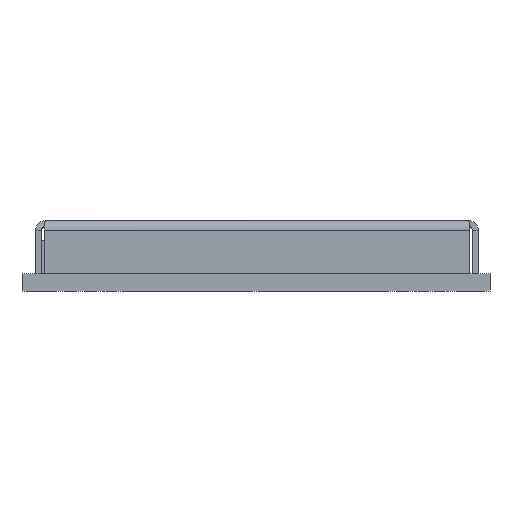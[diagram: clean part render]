
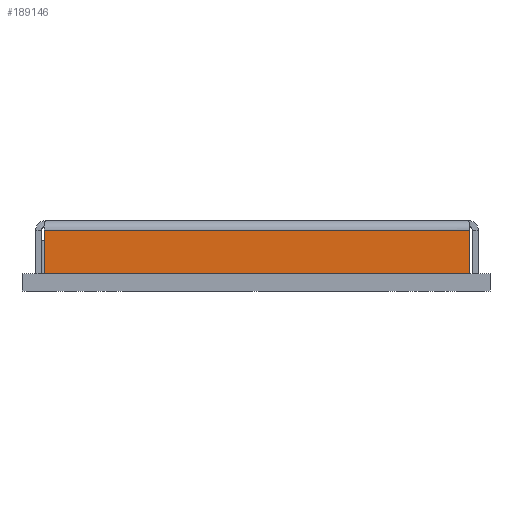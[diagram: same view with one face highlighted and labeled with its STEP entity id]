
A CAD part, front view. The second image highlights one B-rep face of the part: STEP entity #189146.
In plain terms, the highlighted planar face has unit normal (0, -1, 0).
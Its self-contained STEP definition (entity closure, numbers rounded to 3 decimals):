
#10916 = LINE ( 'NONE', #238519, #20875 ) ;
#20875 = VECTOR ( 'NONE', #137827, 1000. ) ;
#31322 = ORIENTED_EDGE ( 'NONE', *, *, #239176, .T. ) ;
#31727 = DIRECTION ( 'NONE',  ( 0., 0., 1. ) ) ;
#32681 = DIRECTION ( 'NONE',  ( 0., 0., 1. ) ) ;
#34026 = AXIS2_PLACEMENT_3D ( 'NONE', #72435, #113353, #32681 ) ;
#42470 = EDGE_LOOP ( 'NONE', ( #80155, #31322, #125591, #238597 ) ) ;
#43751 = VERTEX_POINT ( 'NONE', #158868 ) ;
#66983 = CARTESIAN_POINT ( 'NONE',  ( 11.697, 0.354, 1.11 ) ) ;
#69347 = VERTEX_POINT ( 'NONE', #168715 ) ;
#72435 = CARTESIAN_POINT ( 'NONE',  ( 11.697, 0.354, 1.36 ) ) ;
#79362 = EDGE_CURVE ( 'NONE', #146187, #69347, #199622, .T. ) ;
#80155 = ORIENTED_EDGE ( 'NONE', *, *, #79362, .T. ) ;
#91053 = VERTEX_POINT ( 'NONE', #201171 ) ;
#104255 = EDGE_CURVE ( 'NONE', #91053, #43751, #129931, .T. ) ;
#113353 = DIRECTION ( 'NONE',  ( 0., 1., 0. ) ) ;
#125591 = ORIENTED_EDGE ( 'NONE', *, *, #104255, .T. ) ;
#128846 = EDGE_CURVE ( 'NONE', #43751, #146187, #10916, .T. ) ;
#129931 = LINE ( 'NONE', #230287, #175783 ) ;
#137827 = DIRECTION ( 'NONE',  ( 1., 0., 0. ) ) ;
#141566 = LINE ( 'NONE', #66983, #206221 ) ;
#146187 = VERTEX_POINT ( 'NONE', #184634 ) ;
#158868 = CARTESIAN_POINT ( 'NONE',  ( 0.574, 0.354, 0. ) ) ;
#162643 = DIRECTION ( 'NONE',  ( -1., 0., 0. ) ) ;
#168715 = CARTESIAN_POINT ( 'NONE',  ( 11.477, 0.354, 1.11 ) ) ;
#175783 = VECTOR ( 'NONE', #187013, 1000. ) ;
#184634 = CARTESIAN_POINT ( 'NONE',  ( 11.477, 0.354, 0. ) ) ;
#187013 = DIRECTION ( 'NONE',  ( 0., 0., -1. ) ) ;
#189146 = ADVANCED_FACE ( 'NONE', ( #241635 ), #242862, .F. ) ;
#199622 = LINE ( 'NONE', #235743, #229351 ) ;
#201171 = CARTESIAN_POINT ( 'NONE',  ( 0.574, 0.354, 1.11 ) ) ;
#206221 = VECTOR ( 'NONE', #162643, 1000. ) ;
#229351 = VECTOR ( 'NONE', #31727, 1000. ) ;
#230287 = CARTESIAN_POINT ( 'NONE',  ( 0.574, 0.354, 1.36 ) ) ;
#235743 = CARTESIAN_POINT ( 'NONE',  ( 11.477, 0.354, 1.36 ) ) ;
#238519 = CARTESIAN_POINT ( 'NONE',  ( 11.697, 0.354, 0. ) ) ;
#238597 = ORIENTED_EDGE ( 'NONE', *, *, #128846, .T. ) ;
#239176 = EDGE_CURVE ( 'NONE', #69347, #91053, #141566, .T. ) ;
#241635 = FACE_OUTER_BOUND ( 'NONE', #42470, .T. ) ;
#242862 = PLANE ( 'NONE',  #34026 ) ;
